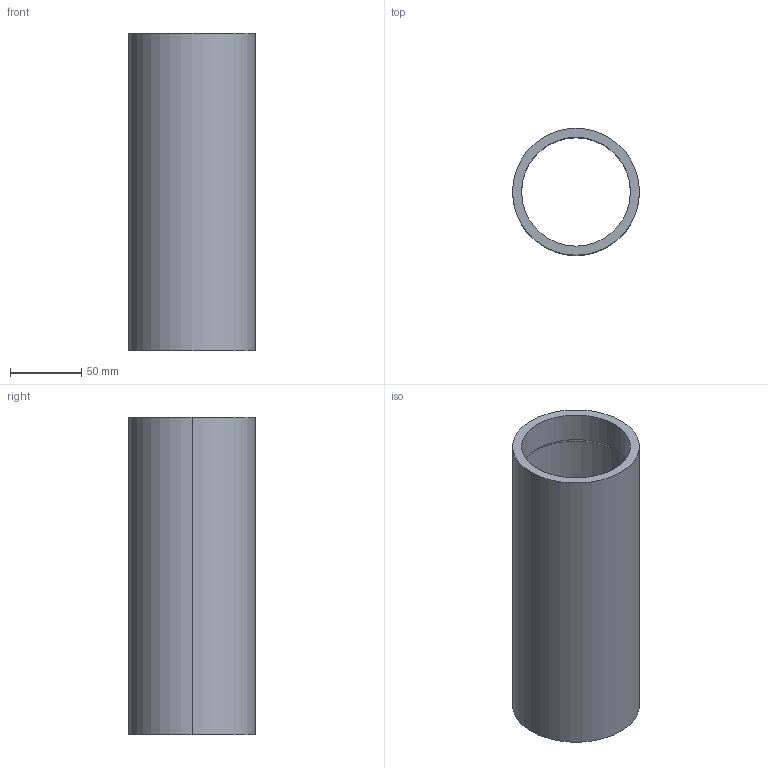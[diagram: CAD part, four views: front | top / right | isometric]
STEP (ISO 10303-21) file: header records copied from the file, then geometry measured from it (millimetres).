
FILE_DESCRIPTION (( 'STEP AP203' ), '1' );
FILE_NAME ('WTE3-M-TUBE-SHORT-R1.STEP', '2017-04-18T15:28:41', ( '' ), ( '' ), 'SwSTEP 2.0', 'SolidWorks 2014', '' );
FILE_SCHEMA (( 'CONFIG_CONTROL_DESIGN' ));
Length unit declared in the file: millimetre
Products named in the file (1): WTE3-M-TUBE-SHORT-R1
Bounding box: 88.9 x 88.9 x 222.25 mm (x, y, z)
Volume: 172458.3 mm3; surface area: 124289.1 mm2
Topology: 1 solids, 1 shells, 14 faces, 28 edges, 16 vertices
Faces by surface type: cylinder 8, cone 4, plane 2
Entity records: 445 total; most frequent: DIRECTION 74, CARTESIAN_POINT 59, ORIENTED_EDGE 56, AXIS2_PLACEMENT_3D 31, EDGE_CURVE 28, CIRCLE 16, EDGE_LOOP 16, VERTEX_POINT 16
